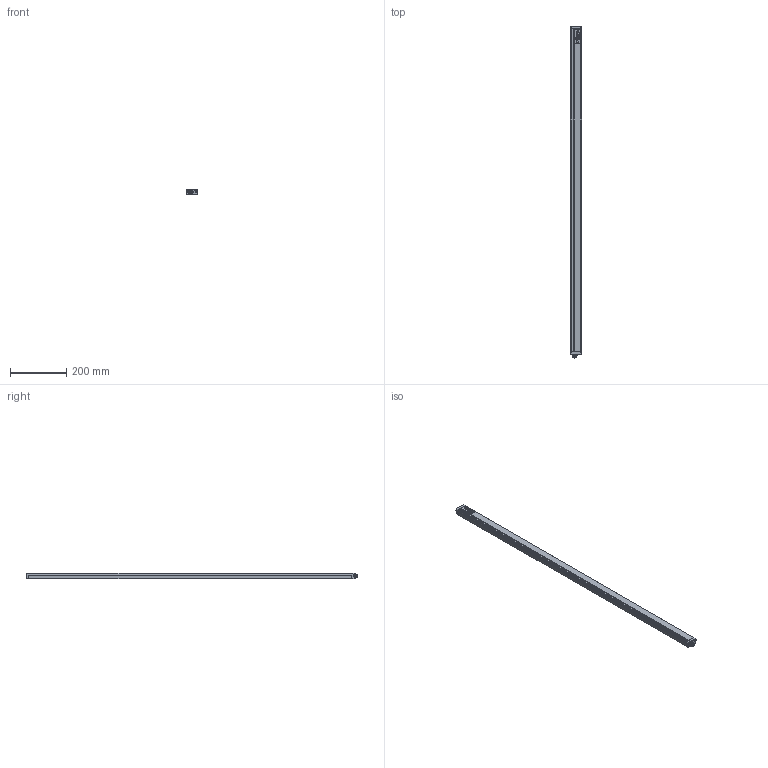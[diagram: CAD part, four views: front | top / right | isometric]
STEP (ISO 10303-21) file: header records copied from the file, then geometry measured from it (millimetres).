
FILE_DESCRIPTION(/* description */ (''),/* implementation_level */ '2;1');
FILE_NAME(/* name */ 'C:\Users\andre\SynologyDrive\Optoscan\Libreria Componenti\00 - Barriere\Polaris sorgente\Polaris_1150_TX.stp',/* time_stamp */ '2021-06-04T10:59:41+02:00',/* author */ ('andre'),/* organization */ (''),/* preprocessor_version */ 'ST-DEVELOPER v18',/* originating_system */ 'Autodesk Inventor 2020',/* authorisation */ '');
FILE_SCHEMA (('AUTOMOTIVE_DESIGN { 1 0 10303 214 3 1 1 }'));
Length unit declared in the file: millimetre
Products named in the file (1): Polaris_1150_TX
Bounding box: 40.5 x 1184.8 x 20.75 mm (x, y, z)
Volume: 235433.4 mm3; surface area: 308570.9 mm2
Topology: 1 solids, 1 shells, 743 faces, 2072 edges, 1332 vertices
Faces by surface type: plane 332, cylinder 208, bspline 115, torus 74, cone 8, sphere 6
Full cylindrical faces by diameter (mm): 1 x8, 2.459 x4, 2.5 x4, 3 x4, 3.5 x4, 5.5 x4, 8 x1, 10.5 x2, 11.75 x9, 12 x1, 12.3 x3, 14.5 x1, 16.7 x1, 17.5 x1
Entity records: 30714 total; most frequent: CARTESIAN_POINT 11308, ORIENTED_EDGE 4130, DIRECTION 3590, EDGE_CURVE 2065, VERTEX_POINT 1333, AXIS2_PLACEMENT_3D 1263, LINE 1064, VECTOR 1064
